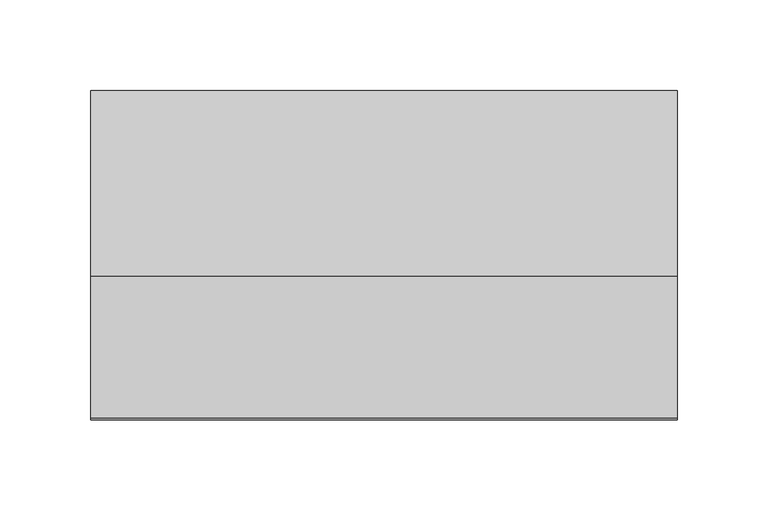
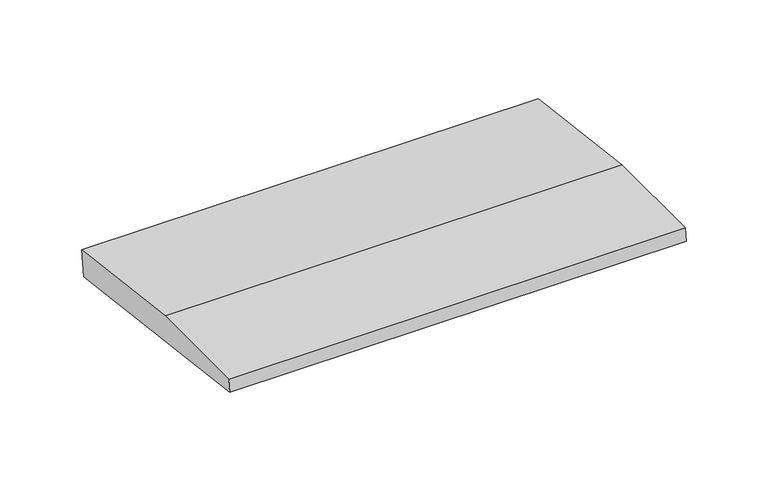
"""IFC4 building model written with IfcOpenShell, lengths in millimetres: beam geometry, weatherboad : weatherboad."""

import ifcopenshell
import ifcopenshell.guid

model = None  # the IFC model being written
_history = None  # IfcOwnerHistory: only IFC2X3 demands one
_inside = {}  # id of a spatial element -> (the spatial element, [elements in it])
_under = {}  # id of a project, library or spatial element -> (it, [spatial elements below it])
_declared = {}  # id of a project -> (the project, [libraries it declares])
_typed = {}  # id of a type object -> (the type object, [elements of that type])
_made_of = {}  # id of a material, layer set ... -> (it, [elements and type objects made of it])


def new_model(schema):
    """Start an empty IFC model of exactly this schema.

    Asked for "IFC4X3", IfcOpenShell would pick the latest addendum, in which some entities
    have other attributes; the version numbers below select the first issue.
    IFC2X3 requires an IfcOwnerHistory on every rooted entity: one is made here for all.
    """
    global model, _history
    if schema == "IFC4X3":
        model = ifcopenshell.file(schema_version=(4, 3, 0, 0))
    else:
        model = ifcopenshell.file(schema=schema)
    _inside.clear()
    _under.clear()
    _declared.clear()
    _typed.clear()
    _made_of.clear()
    _history = None
    if model.schema == "IFC2X3":
        org = make("IfcOrganization", Name="unknown")
        user = make(
            "IfcPersonAndOrganization",
            ThePerson=make("IfcPerson", FamilyName="unknown"),
            TheOrganization=org,
        )
        app = make(
            "IfcApplication",
            ApplicationDeveloper=org,
            Version="unknown",
            ApplicationFullName="unknown",
            ApplicationIdentifier="unknown",
        )
        _history = make(
            "IfcOwnerHistory",
            OwningUser=user,
            OwningApplication=app,
            ChangeAction="ADDED",
            CreationDate=0,
        )
    return model


def make(cls, **values):
    """One entity of the class cls with the attributes given. An attribute that is None is left unset."""
    return model.create_entity(
        cls, **{name: value for name, value in values.items() if value is not None}
    )


def rooted(cls, **values):
    """An entity with a GlobalId (a new one), such as an element, a storey or a relation."""
    return make(cls, GlobalId=ifcopenshell.guid.new(), OwnerHistory=_history, **values)


def si_unit(unit_type, name, prefix=None):
    """IfcSIUnit, for example si_unit("LENGTHUNIT", "METRE", prefix="MILLI")."""
    return make("IfcSIUnit", UnitType=unit_type, Prefix=prefix, Name=name)


def assignment(units):
    """IfcUnitAssignment: the units of a project."""
    return None if units is None else make("IfcUnitAssignment", Units=units)


def point(xyz):
    """IfcCartesianPoint."""
    return None if xyz is None else make("IfcCartesianPoint", Coordinates=xyz)


def direction(xyz):
    """IfcDirection."""
    return None if xyz is None else make("IfcDirection", DirectionRatios=xyz)


def frame(location, z_axis=None, x_axis=None):
    """IfcAxis2Placement3D, a coordinate frame: its origin and axes. An axis left out is left unset."""
    return make(
        "IfcAxis2Placement3D",
        Location=point(location),
        Axis=direction(z_axis),
        RefDirection=direction(x_axis),
    )


def origin():
    """The frame at (0, 0, 0) with its axes left unset."""
    return frame((0.0, 0.0, 0.0))


def place(relative_to, where):
    """IfcLocalPlacement: puts the frame where relative to a parent placement (None: the world)."""
    return make(
        "IfcLocalPlacement", PlacementRelTo=relative_to, RelativePlacement=where
    )


def context(
    kind, dimensions, precision=None, world=None, true_north=None, identifier=None
):
    """IfcGeometricRepresentationContext, for example the 3D "Model" context."""
    return make(
        "IfcGeometricRepresentationContext",
        ContextIdentifier=identifier,
        ContextType=kind,
        CoordinateSpaceDimension=dimensions,
        Precision=precision,
        WorldCoordinateSystem=world,
        TrueNorth=true_north,
    )


def project(units=None, contexts=None):
    """IfcProject with its units and contexts."""
    return rooted(
        "IfcProject",
        Name="project",
        RepresentationContexts=contexts,
        UnitsInContext=assignment(units),
    )


def spatial(cls, under=None, at=None, **own):
    """A site, building, storey or space (cls), placed at a placement, below another one or the project."""
    s = rooted(cls, ObjectPlacement=at, **own)
    if under is not None:
        _under.setdefault(under.id(), (under, []))[1].append(s)
    return s


def polyline(points):
    """IfcPolyline through the points."""
    return make("IfcPolyline", Points=[point(p) for p in points])


def outline(outer, holes=None, kind="AREA"):
    """IfcArbitraryClosedProfileDef: a profile drawn as a closed curve; with holes, ...WithVoids."""
    if holes is None:
        return make("IfcArbitraryClosedProfileDef", ProfileType=kind, OuterCurve=outer)
    return make(
        "IfcArbitraryProfileDefWithVoids",
        ProfileType=kind,
        OuterCurve=outer,
        InnerCurves=holes,
    )


def extrude(swept, where, along, depth):
    """IfcExtrudedAreaSolid: the profile swept, set in the frame where, extruded along a direction by depth."""
    return make(
        "IfcExtrudedAreaSolid",
        SweptArea=swept,
        Position=where,
        ExtrudedDirection=direction(along),
        Depth=depth,
    )


def shape(context_of_items, identifier, shape_type, items):
    """IfcShapeRepresentation: the items that make up one representation, for example the "Body"."""
    return make(
        "IfcShapeRepresentation",
        ContextOfItems=context_of_items,
        RepresentationIdentifier=identifier,
        RepresentationType=shape_type,
        Items=items,
    )


def source(mapping_origin, context_of_items, identifier, shape_type, items):
    """IfcRepresentationMap: a shape defined once, which mapped items show again and again."""
    return make(
        "IfcRepresentationMap",
        MappingOrigin=mapping_origin,
        MappedRepresentation=shape(context_of_items, identifier, shape_type, items),
    )


def transform(
    local_origin,
    x_axis=None,
    y_axis=None,
    z_axis=None,
    scale=None,
    scale2=None,
    scale3=None,
    uniform=True,
):
    """IfcCartesianTransformationOperator3D, or its non-uniform kind. x_axis, y_axis, z_axis: its Axis1, 2, 3."""
    if uniform:
        return make(
            "IfcCartesianTransformationOperator3D",
            Axis1=direction(x_axis),
            Axis2=direction(y_axis),
            LocalOrigin=point(local_origin),
            Scale=scale,
            Axis3=direction(z_axis),
        )
    return make(
        "IfcCartesianTransformationOperator3DnonUniform",
        Axis1=direction(x_axis),
        Axis2=direction(y_axis),
        LocalOrigin=point(local_origin),
        Scale=scale,
        Axis3=direction(z_axis),
        Scale2=scale2,
        Scale3=scale3,
    )


def mapped(mapping_source, mapping_target):
    """IfcMappedItem: shows the shape of a source again, moved by a transform."""
    return make(
        "IfcMappedItem", MappingSource=mapping_source, MappingTarget=mapping_target
    )


def made_of(thing, what):
    """Note that an element or type object is made of a material, layer set ...; save() writes the relation."""
    if what is not None:
        _made_of.setdefault(what.id(), (what, []))[1].append(thing)
    return thing


def element(
    cls,
    number,
    at=None,
    inside=None,
    cuts=None,
    type_object=None,
    material=None,
    context=None,
    identifier="Body",
    shape_type=None,
    held_by="IfcProductDefinitionShape",
    body=None,
    shapes=None,
    **own,
):
    """One element of the class cls, such as IfcWall. Its Tag is "e" and its number.

    at: its placement. inside: the storey or other place that contains it. cuts: it is an
    opening in that element (IfcRelVoidsElement). A single representation is given by context,
    identifier, shape_type and body (its items); several are given by shapes. held_by: the class
    of the entity that holds the representations. save() writes the other relations.
    """
    e = rooted(cls, Tag="e%d" % number, ObjectPlacement=at, **own)
    if body is not None:
        shapes = [shape(context, identifier, shape_type, body)]
    if shapes is not None:
        e.Representation = make(held_by, Representations=shapes)
    if inside is not None:
        _inside.setdefault(inside.id(), (inside, []))[1].append(e)
    if cuts is not None:
        rooted(
            "IfcRelVoidsElement", RelatingBuildingElement=cuts, RelatedOpeningElement=e
        )
    if type_object is not None:
        _typed.setdefault(type_object.id(), (type_object, []))[1].append(e)
    return made_of(e, material)


def aggregate(whole, parts):
    """IfcRelAggregates: a whole, such as a stair, and the parts it consists of."""
    return rooted("IfcRelAggregates", RelatingObject=whole, RelatedObjects=parts)


def save(model, path):
    """Write the relations noted so far, then the file.

    IfcRelAggregates (storeys below a building ...), IfcRelContainedInSpatialStructure (elements
    in a storey), IfcRelDefinesByType, IfcRelAssociatesMaterial and IfcRelDeclares: one each for
    every whole, place, type object, material and project.
    """
    for whole, parts in _under.values():
        aggregate(whole, parts)
    for where, things in _inside.values():
        rooted(
            "IfcRelContainedInSpatialStructure",
            RelatedElements=things,
            RelatingStructure=where,
        )
    for kind, things in _typed.values():
        rooted("IfcRelDefinesByType", RelatedObjects=things, RelatingType=kind)
    for what, things in _made_of.values():
        rooted("IfcRelAssociatesMaterial", RelatedObjects=things, RelatingMaterial=what)
    for by, libraries in _declared.values():
        rooted("IfcRelDeclares", RelatingContext=by, RelatedDefinitions=libraries)
    model.write(path)


def beam_1adccc99(model_context):
    return source(origin(), model_context, "Body", "SweptSolid", [
        extrude(outline(polyline([(0.0, -9.143159), (1.1226388, 0.0), (79.0749747, 0.0), (180.9387048, -12.5072934), (178.6231873, -31.3656703), (0.0, -9.143159)])), frame((-161.0397779, 0.0, 0.0), z_axis=(1.0, 0.0, 0.0), x_axis=(0.0, 1.0, 0.0)), (0.0, 0.0, 1.0), 322.0795559),
    ])


if __name__ == "__main__":
    model = new_model("IFC4")
    model_context = context("Model", 3, world=origin())
    ifc_project = project(units=[si_unit("LENGTHUNIT", "METRE", prefix="MILLI")], contexts=[model_context])
    site = spatial("IfcSite", under=ifc_project)
    building = spatial("IfcBuilding", under=site)
    placement = place(None, origin())
    beam_shape = beam_1adccc99(model_context)
    element("IfcBeam", 1, ObjectType="weatherboad : weatherboad", at=placement, inside=building, context=model_context, shape_type="MappedRepresentation", body=[
        mapped(beam_shape, transform((0.0, 0.0, 0.0), x_axis=(1.0, 0.0, 0.0), y_axis=(0.0, 1.0, 0.0), z_axis=(0.0, 0.0, 1.0))),
    ])
    save(model, "model.ifc")
